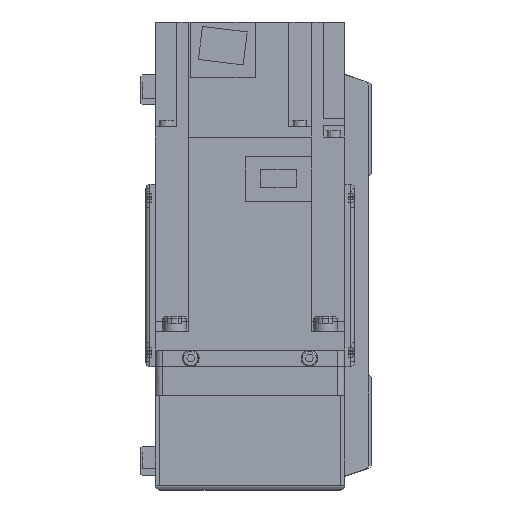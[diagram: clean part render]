
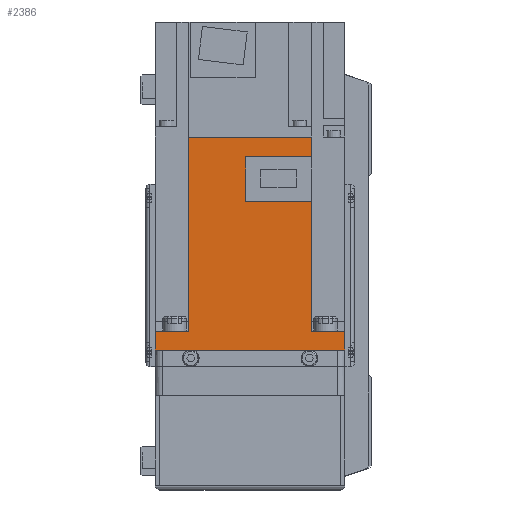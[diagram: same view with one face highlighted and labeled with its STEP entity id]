
A CAD part, left-side view. The second image highlights one B-rep face of the part: STEP entity #2386.
In plain terms, the highlighted planar face has unit normal (-1, 0, 0) as drawn and (1, 0, 0) by its records, which use the part's own axes.
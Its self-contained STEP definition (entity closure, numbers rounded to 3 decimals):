
#2386 = ADVANCED_FACE( '', ( #5387 ), #5388, .F. );
#5387 = FACE_OUTER_BOUND( '', #9005, .T. );
#5388 = PLANE( '', #9006 );
#9005 = EDGE_LOOP( '', ( #15663, #15664, #15665, #15666, #15667, #15668, #15669, #15670, #15671, #15672, #15673, #15674 ) );
#9006 = AXIS2_PLACEMENT_3D( '', #15675, #15676, #15677 );
#15663 = ORIENTED_EDGE( '', *, *, #22872, .F. );
#15664 = ORIENTED_EDGE( '', *, *, #22089, .F. );
#15665 = ORIENTED_EDGE( '', *, *, #22873, .F. );
#15666 = ORIENTED_EDGE( '', *, *, #22874, .T. );
#15667 = ORIENTED_EDGE( '', *, *, #22875, .F. );
#15668 = ORIENTED_EDGE( '', *, *, #22876, .T. );
#15669 = ORIENTED_EDGE( '', *, *, #22877, .T. );
#15670 = ORIENTED_EDGE( '', *, *, #22878, .F. );
#15671 = ORIENTED_EDGE( '', *, *, #22780, .F. );
#15672 = ORIENTED_EDGE( '', *, *, #22091, .F. );
#15673 = ORIENTED_EDGE( '', *, *, #22243, .F. );
#15674 = ORIENTED_EDGE( '', *, *, #21527, .F. );
#15675 = CARTESIAN_POINT( '', ( 40., 89.8, 40. ) );
#15676 = DIRECTION( '', ( -1., 0., 0. ) );
#15677 = DIRECTION( '', ( 0., 0., 1. ) );
#21527 = EDGE_CURVE( '', #26134, #26135, #26136, .T. );
#22089 = EDGE_CURVE( '', #27028, #27030, #27031, .T. );
#22091 = EDGE_CURVE( '', #27032, #27034, #27035, .T. );
#22243 = EDGE_CURVE( '', #26135, #27032, #27273, .T. );
#22780 = EDGE_CURVE( '', #27034, #28044, #28045, .T. );
#22872 = EDGE_CURVE( '', #27030, #26134, #28168, .T. );
#22873 = EDGE_CURVE( '', #28169, #27028, #28170, .T. );
#22874 = EDGE_CURVE( '', #28169, #28171, #28172, .T. );
#22875 = EDGE_CURVE( '', #28173, #28171, #28174, .T. );
#22876 = EDGE_CURVE( '', #28173, #28175, #28176, .T. );
#22877 = EDGE_CURVE( '', #28175, #28177, #28178, .T. );
#22878 = EDGE_CURVE( '', #28044, #28177, #28179, .T. );
#26134 = VERTEX_POINT( '', #32646 );
#26135 = VERTEX_POINT( '', #32647 );
#26136 = LINE( '', #32648, #32649 );
#27028 = VERTEX_POINT( '', #33991 );
#27030 = VERTEX_POINT( '', #33994 );
#27031 = LINE( '', #33995, #33996 );
#27032 = VERTEX_POINT( '', #33997 );
#27034 = VERTEX_POINT( '', #34000 );
#27035 = LINE( '', #34001, #34002 );
#27273 = LINE( '', #34388, #34389 );
#28044 = VERTEX_POINT( '', #35744 );
#28045 = LINE( '', #35745, #35746 );
#28168 = LINE( '', #35947, #35948 );
#28169 = VERTEX_POINT( '', #35949 );
#28170 = LINE( '', #35950, #35951 );
#28171 = VERTEX_POINT( '', #35952 );
#28172 = LINE( '', #35953, #35954 );
#28173 = VERTEX_POINT( '', #35955 );
#28174 = LINE( '', #35956, #35957 );
#28175 = VERTEX_POINT( '', #35958 );
#28176 = LINE( '', #35959, #35960 );
#28177 = VERTEX_POINT( '', #35961 );
#28178 = LINE( '', #35962, #35963 );
#28179 = LINE( '', #35964, #35965 );
#32646 = CARTESIAN_POINT( '', ( 40., 81.4, 1.8 ) );
#32647 = CARTESIAN_POINT( '', ( 40., 62.8, 1.8 ) );
#32648 = CARTESIAN_POINT( '', ( 40., 81.4, 1.8 ) );
#32649 = VECTOR( '', #39714, 1000. );
#33991 = CARTESIAN_POINT( '', ( 40., 89.8, -25.95 ) );
#33994 = CARTESIAN_POINT( '', ( 40., 81.4, -25.95 ) );
#33995 = CARTESIAN_POINT( '', ( 40., 158., -25.95 ) );
#33996 = VECTOR( '', #40403, 1000. );
#33997 = CARTESIAN_POINT( '', ( 40., 62.8, -25.95 ) );
#34000 = CARTESIAN_POINT( '', ( 40., 8., -25.95 ) );
#34001 = CARTESIAN_POINT( '', ( 40., 158., -25.95 ) );
#34002 = VECTOR( '', #40405, 1000. );
#34388 = CARTESIAN_POINT( '', ( 40., 62.8, 1.8 ) );
#34389 = VECTOR( '', #40605, 1000. );
#35744 = CARTESIAN_POINT( '', ( 40., 8., -40. ) );
#35745 = CARTESIAN_POINT( '', ( 40., 8., 40. ) );
#35746 = VECTOR( '', #41218, 1000. );
#35947 = CARTESIAN_POINT( '', ( 40., 81.4, -26. ) );
#35948 = VECTOR( '', #41334, 1000. );
#35949 = CARTESIAN_POINT( '', ( 40., 89.8, 25.95 ) );
#35950 = CARTESIAN_POINT( '', ( 40., 89.8, 40. ) );
#35951 = VECTOR( '', #41335, 1000. );
#35952 = CARTESIAN_POINT( '', ( 40., 8., 25.95 ) );
#35953 = CARTESIAN_POINT( '', ( 40., 158., 25.95 ) );
#35954 = VECTOR( '', #41336, 1000. );
#35955 = CARTESIAN_POINT( '', ( 40., 8., 40. ) );
#35956 = CARTESIAN_POINT( '', ( 40., 8., 40. ) );
#35957 = VECTOR( '', #41337, 1000. );
#35958 = CARTESIAN_POINT( '', ( 40., 0., 40. ) );
#35959 = CARTESIAN_POINT( '', ( 40., 89.8, 40. ) );
#35960 = VECTOR( '', #41338, 1000. );
#35961 = CARTESIAN_POINT( '', ( 40., 0., -40. ) );
#35962 = CARTESIAN_POINT( '', ( 40., 0., 40. ) );
#35963 = VECTOR( '', #41339, 1000. );
#35964 = CARTESIAN_POINT( '', ( 40., 89.8, -40. ) );
#35965 = VECTOR( '', #41340, 1000. );
#39714 = DIRECTION( '', ( 0., -1., 0. ) );
#40403 = DIRECTION( '', ( 0., -1., 0. ) );
#40405 = DIRECTION( '', ( 0., -1., 0. ) );
#40605 = DIRECTION( '', ( 0., 0., -1. ) );
#41218 = DIRECTION( '', ( 0., 0., -1. ) );
#41334 = DIRECTION( '', ( 0., 0., 1. ) );
#41335 = DIRECTION( '', ( 0., 0., -1. ) );
#41336 = DIRECTION( '', ( 0., -1., 0. ) );
#41337 = DIRECTION( '', ( 0., 0., -1. ) );
#41338 = DIRECTION( '', ( 0., -1., 0. ) );
#41339 = DIRECTION( '', ( 0., 0., -1. ) );
#41340 = DIRECTION( '', ( 0., -1., 0. ) );
